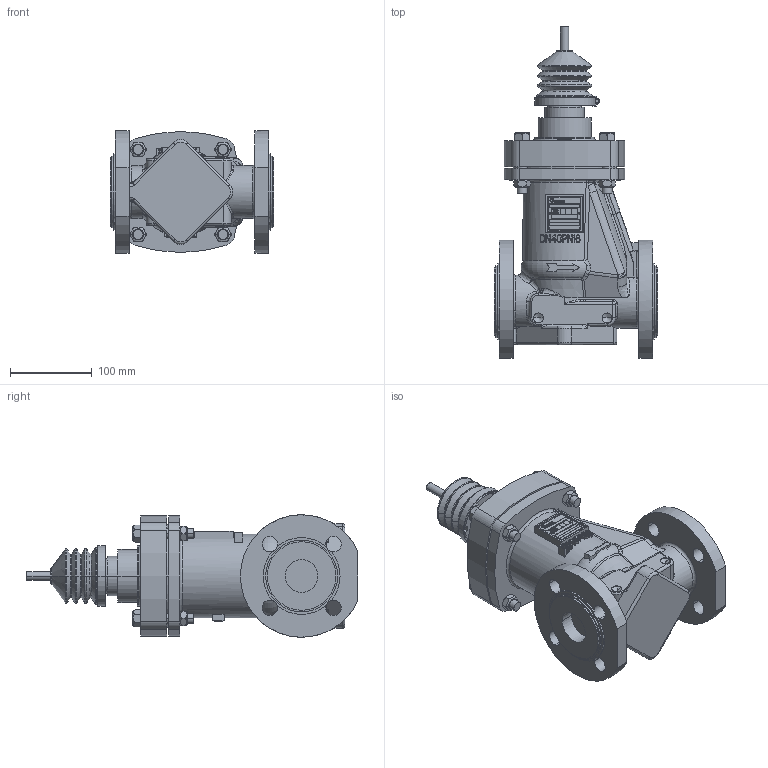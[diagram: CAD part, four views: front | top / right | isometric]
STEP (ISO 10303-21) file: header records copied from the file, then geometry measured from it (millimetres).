
FILE_DESCRIPTION((''),'2;1');
FILE_NAME('9560-00-5004_A_SW0001','2014-07-01T',('mclefen'),(''),'PRO/ENGINEER BY PARAMETRIC TECHNOLOGY CORPORATION, 2011040','PRO/ENGINEER BY PARAMETRIC TECHNOLOGY CORPORATION, 2011040','');
FILE_SCHEMA(('CONFIG_CONTROL_DESIGN'));
Products named in the file (1): 9560-00-5004_A_SW0001
Bounding box: 200 x 406.5 x 150 mm (x, y, z)
Volume: 3702787.9 mm3; surface area: 370140.9 mm2
Topology: 2 solids, 2 shells, 2745 faces, 7509 edges, 4906 vertices
Faces by surface type: plane 2253, cylinder 241, bspline 103, torus 81, cone 50, sphere 17
Entity records: 94235 total; most frequent: CARTESIAN_POINT 25335, ORIENTED_EDGE 14994, DIRECTION 13045, EDGE_CURVE 7497, VECTOR 6227, LINE 6227, VERTEX_POINT 4906, AXIS2_PLACEMENT_3D 3409
